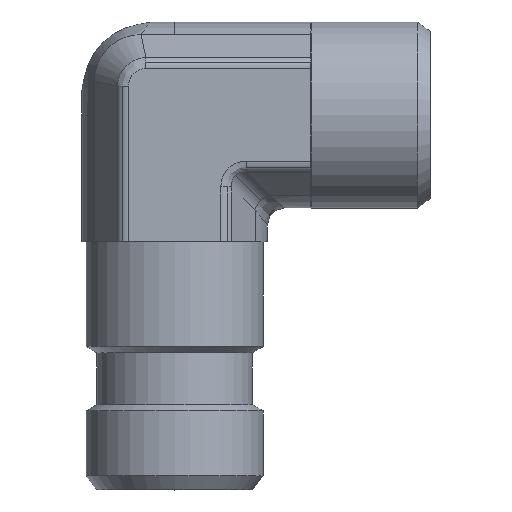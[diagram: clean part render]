
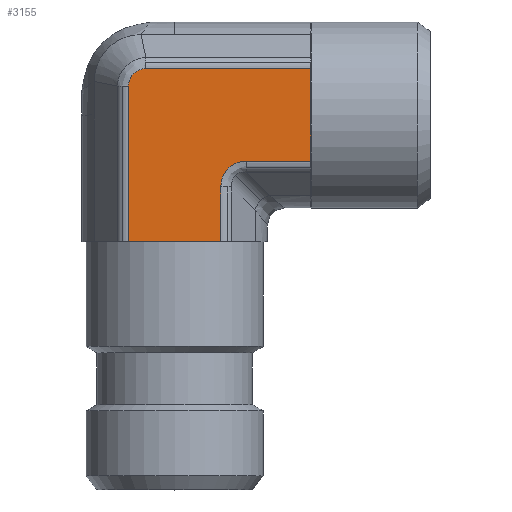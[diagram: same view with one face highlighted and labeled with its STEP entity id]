
A CAD part, top view. The second image highlights one B-rep face of the part: STEP entity #3155.
In plain terms, the highlighted planar face has unit normal (0, 0, 1) as drawn and (0, -1, 0) by its records, which use the part's own axes.
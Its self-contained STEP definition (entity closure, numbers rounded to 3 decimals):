
#319=CARTESIAN_POINT('',(3.958,-10.9,5.427));
#320=VERTEX_POINT('',#319);
#328=CARTESIAN_POINT('',(10.35,-10.9,5.427));
#329=VERTEX_POINT('',#328);
#330=CARTESIAN_POINT('',(3.958,-10.9,5.427));
#331=DIRECTION('',(1.0,0.0,0.0));
#332=VECTOR('',#331,6.392);
#333=LINE('',#330,#332);
#334=EDGE_CURVE('',#320,#329,#333,.T.);
#443=CARTESIAN_POINT('',(-9.927,-10.9,-3.382));
#444=VERTEX_POINT('',#443);
#452=CARTESIAN_POINT('',(-9.927,-10.9,16.0));
#453=VERTEX_POINT('',#452);
#454=CARTESIAN_POINT('',(-9.927,-10.9,-3.382));
#455=DIRECTION('',(0.0,0.0,1.0));
#456=VECTOR('',#455,19.382);
#457=LINE('',#454,#456);
#458=EDGE_CURVE('',#444,#453,#457,.T.);
#2045=CARTESIAN_POINT('',(10.35,-10.9,-5.427));
#2046=VERTEX_POINT('',#2045);
#2047=CARTESIAN_POINT('',(10.35,-10.9,-5.427));
#2048=DIRECTION('',(0.0,0.0,1.0));
#2049=VECTOR('',#2048,10.854);
#2050=LINE('',#2047,#2049);
#2051=EDGE_CURVE('',#2046,#329,#2050,.T.);
#2275=CARTESIAN_POINT('',(-4.5,-10.9,16.0));
#2276=VERTEX_POINT('',#2275);
#2341=CARTESIAN_POINT('',(-4.5,-10.9,16.0));
#2342=DIRECTION('',(-1.0,0.0,0.0));
#2343=VECTOR('',#2342,5.427);
#2344=LINE('',#2341,#2343);
#2345=EDGE_CURVE('',#2276,#453,#2344,.T.);
#2405=CARTESIAN_POINT('',(0.927,-10.9,16.0));
#2406=VERTEX_POINT('',#2405);
#2407=CARTESIAN_POINT('',(0.927,-10.9,16.0));
#2408=DIRECTION('',(-1.0,0.0,0.0));
#2409=VECTOR('',#2408,5.427);
#2410=LINE('',#2407,#2409);
#2411=EDGE_CURVE('',#2406,#2276,#2410,.T.);
#2840=CARTESIAN_POINT('',(-7.882,-10.9,-5.427));
#2841=VERTEX_POINT('',#2840);
#2849=CARTESIAN_POINT('',(-9.927,-10.9,-3.382));
#2850=CARTESIAN_POINT('',(-9.927,-10.9,-3.515));
#2851=CARTESIAN_POINT('',(-9.914,-10.9,-3.65));
#2852=CARTESIAN_POINT('',(-9.845,-10.9,-3.992));
#2853=CARTESIAN_POINT('',(-9.77,-10.9,-4.194));
#2854=CARTESIAN_POINT('',(-9.497,-10.9,-4.681));
#2855=CARTESIAN_POINT('',(-9.253,-10.9,-4.936));
#2856=CARTESIAN_POINT('',(-8.638,-10.9,-5.32));
#2857=CARTESIAN_POINT('',(-8.26,-10.9,-5.427));
#2858=CARTESIAN_POINT('',(-7.882,-10.9,-5.427));
#2859=B_SPLINE_CURVE_WITH_KNOTS('',3,(#2849,#2850,#2851,#2852,#2853,#2854,#2855,#2856,#2857,#2858),.UNSPECIFIED.,.F.,.U.,(4,2,2,2,4),(-3.195,-2.796,-2.157,-1.134,0.0),.UNSPECIFIED.);
#2860=EDGE_CURVE('',#2841,#444,#2859,.F.);
#2887=CARTESIAN_POINT('',(10.35,-10.9,-5.427));
#2888=DIRECTION('',(-1.0,0.0,0.0));
#2889=VECTOR('',#2888,18.232);
#2890=LINE('',#2887,#2889);
#2891=EDGE_CURVE('',#2046,#2841,#2890,.T.);
#3023=CARTESIAN_POINT('',(0.927,-10.9,8.458));
#3024=VERTEX_POINT('',#3023);
#3025=CARTESIAN_POINT('',(0.927,-10.9,16.0));
#3026=DIRECTION('',(0.0,0.0,-1.0));
#3027=VECTOR('',#3026,7.542);
#3028=LINE('',#3025,#3027);
#3029=EDGE_CURVE('',#2406,#3024,#3028,.T.);
#3112=CARTESIAN_POINT('',(4.969,-10.9,9.469));
#3113=DIRECTION('',(0.,-1.0,0.));
#3114=DIRECTION('',(-0.707,0.,-0.707));
#3115=AXIS2_PLACEMENT_3D('',#3112,#3113,#3114);
#3116=ELLIPSE('',#3115,4.518,3.5);
#3117=EDGE_CURVE('',#3024,#320,#3116,.T.);
#3139=CARTESIAN_POINT('',(-4.5,-10.9,-3.175));
#3140=DIRECTION('',(0.0,-1.0,0.0));
#3141=DIRECTION('',(0.0,0.0,-1.0));
#3142=AXIS2_PLACEMENT_3D('',#3139,#3140,#3141);
#3143=PLANE('',#3142);
#3144=ORIENTED_EDGE('',*,*,#2051,.T.);
#3145=ORIENTED_EDGE('',*,*,#334,.F.);
#3146=ORIENTED_EDGE('',*,*,#3117,.F.);
#3147=ORIENTED_EDGE('',*,*,#3029,.F.);
#3148=ORIENTED_EDGE('',*,*,#2411,.T.);
#3149=ORIENTED_EDGE('',*,*,#2345,.T.);
#3150=ORIENTED_EDGE('',*,*,#458,.F.);
#3151=ORIENTED_EDGE('',*,*,#2860,.F.);
#3152=ORIENTED_EDGE('',*,*,#2891,.F.);
#3153=EDGE_LOOP('',(#3144,#3145,#3146,#3147,#3148,#3149,#3150,#3151,#3152));
#3154=FACE_OUTER_BOUND('',#3153,.T.);
#3155=ADVANCED_FACE('',(#3154),#3143,.T.);
